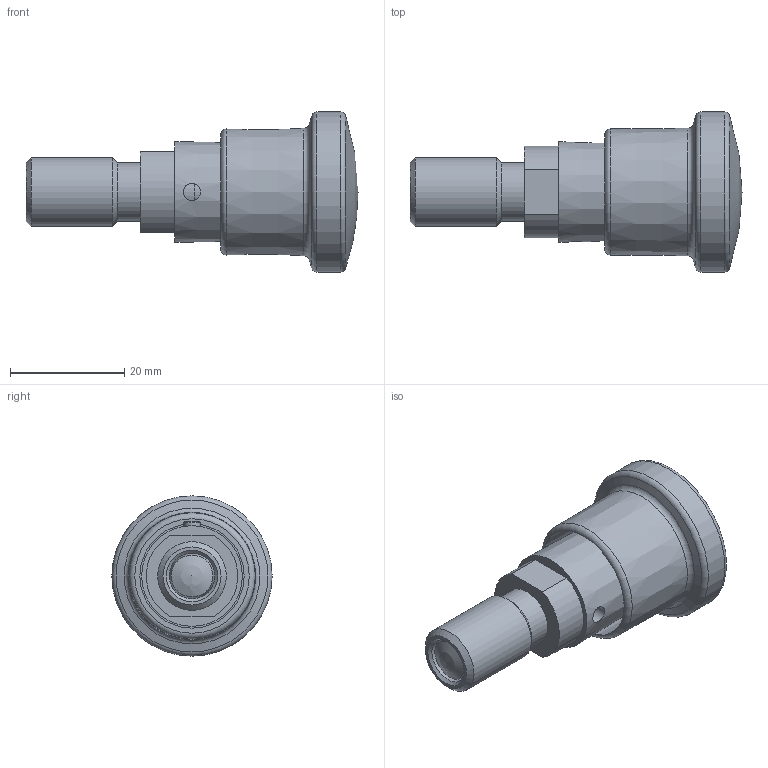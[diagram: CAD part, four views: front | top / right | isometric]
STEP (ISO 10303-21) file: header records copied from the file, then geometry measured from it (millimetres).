
FILE_DESCRIPTION( ( 'STEP AP203' ), '1' );
FILE_NAME( 'C:/Temp/Ganter_Step_05_03_2020/data/3_1/gn816/gn_816_a/Locking plunger GN 816-8-M12x1,5-A (activated).stp', '2020-03-12T08:55:33', ( 'License CC BY-ND 4.0' ), ( 'CADENAS' ), ' ', 'PARTsolutions', ' ' );
FILE_SCHEMA( ( 'CONFIG_CONTROL_DESIGN' ) );
Length unit declared in the file: millimetre
Products named in the file (3): Locking plunger GN 816-8-M12x1,5-A (activated); _GN 816-8-M12x1,5-A (1)-a2; _GN 816-8-M12x1,5-A-a1
Assembly tree (2 placements, depth 2):
  Locking plunger GN 816-8-M12x1,5-A (activated)
    _GN 816-8-M12x1,5-A (1)-a2
    _GN 816-8-M12x1,5-A-a1
Bounding box: 58 x 28 x 28 mm (x, y, z)
Volume: 11427 mm3; surface area: 9091.4 mm2
Topology: 2 solids, 2 shells, 51 faces, 101 edges, 62 vertices
Faces by surface type: cylinder 16, plane 15, cone 12, torus 6, sphere 2
Full cylindrical faces by diameter (mm): 2.9 x2, 3 x2, 5.9 x1, 6 x1, 8 x2, 10.2 x1, 11.1 x1, 12 x1, 18.2 x1, 20.017 x1, 28 x1
Entity records: 1490 total; most frequent: CARTESIAN_POINT 470, DIRECTION 206, ORIENTED_EDGE 118, EDGE_LOOP 100, AXIS2_PLACEMENT_3D 99, FACE_OUTER_BOUND 71, EDGE_CURVE 59, VERTEX_POINT 57
